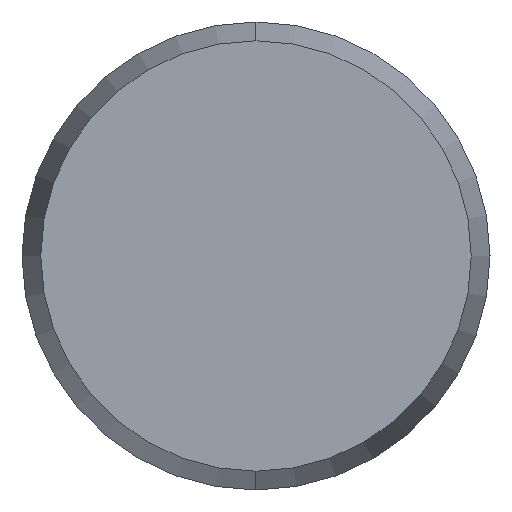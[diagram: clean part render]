
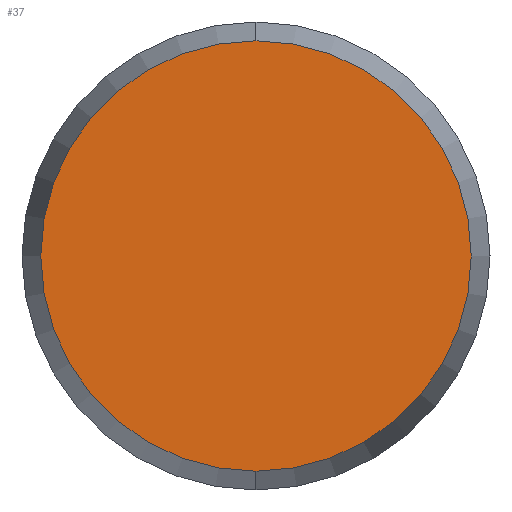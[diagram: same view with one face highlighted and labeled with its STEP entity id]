
A CAD part, left-side view. The second image highlights one B-rep face of the part: STEP entity #37.
In plain terms, the highlighted planar face has unit normal (-1, 0, 0).
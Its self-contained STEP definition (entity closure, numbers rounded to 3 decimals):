
#34 = EDGE_CURVE ( 'NONE', #45, #44, #85, .T. ) ;
#37 = ADVANCED_FACE ( 'NONE', ( #78 ), #77, .F. ) ;
#38 = EDGE_LOOP ( 'NONE', ( #39, #40 ) ) ;
#39 = ORIENTED_EDGE ( 'NONE', *, *, #43, .F. ) ;
#40 = ORIENTED_EDGE ( 'NONE', *, *, #34, .F. ) ;
#43 = EDGE_CURVE ( 'NONE', #44, #45, #71, .T. ) ;
#44 = VERTEX_POINT ( 'NONE', #154 ) ;
#45 = VERTEX_POINT ( 'NONE', #153 ) ;
#71 = CIRCLE ( 'NONE', #157, 4.598 ) ;
#72 = DIRECTION ( 'NONE',  ( 0., 0., -1. ) ) ;
#73 = DIRECTION ( 'NONE',  ( 1., 0., 0. ) ) ;
#74 = CARTESIAN_POINT ( 'NONE',  ( -60., 0., 0. ) ) ;
#75 = CARTESIAN_POINT ( 'NONE',  ( -60., 0., 0. ) ) ;
#76 = AXIS2_PLACEMENT_3D ( 'NONE', #74, #73, #72 ) ;
#77 = PLANE ( 'NONE',  #76 ) ;
#78 = FACE_OUTER_BOUND ( 'NONE', #38, .T. ) ;
#79 = DIRECTION ( 'NONE',  ( 0., 0., -1. ) ) ;
#80 = DIRECTION ( 'NONE',  ( 1., 0., 0. ) ) ;
#81 = CARTESIAN_POINT ( 'NONE',  ( -60., 0., 0. ) ) ;
#82 = AXIS2_PLACEMENT_3D ( 'NONE', #81, #80, #79 ) ;
#85 = CIRCLE ( 'NONE', #82, 4.598 ) ;
#153 = CARTESIAN_POINT ( 'NONE',  ( -60., 0., -4.598 ) ) ;
#154 = CARTESIAN_POINT ( 'NONE',  ( -60., 0., 4.598 ) ) ;
#155 = DIRECTION ( 'NONE',  ( 0., 0., -1. ) ) ;
#156 = DIRECTION ( 'NONE',  ( 1., 0., 0. ) ) ;
#157 = AXIS2_PLACEMENT_3D ( 'NONE', #75, #156, #155 ) ;
